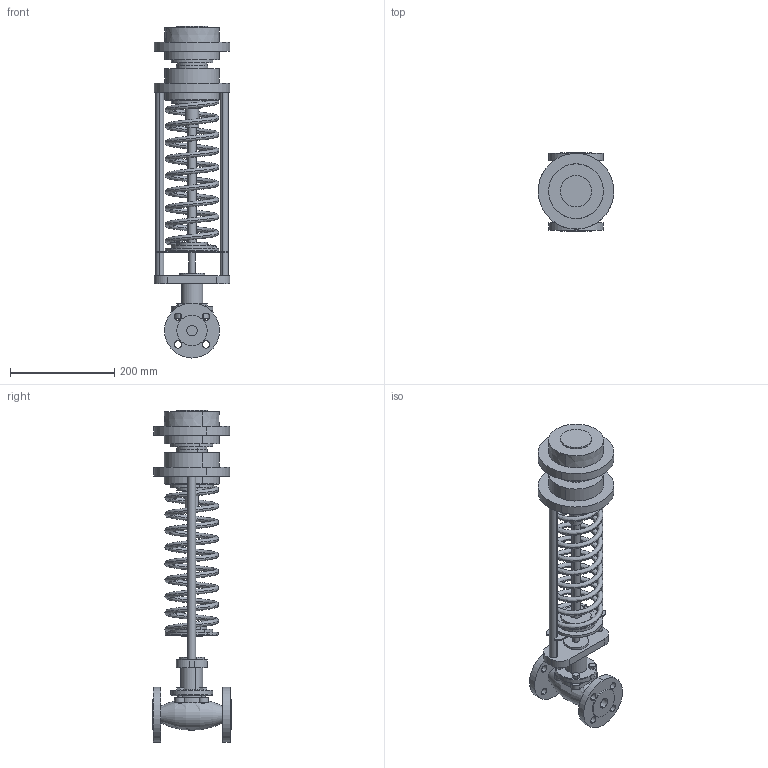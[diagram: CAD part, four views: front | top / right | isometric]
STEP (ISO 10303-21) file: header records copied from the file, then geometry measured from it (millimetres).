
FILE_DESCRIPTION (( 'STEP AP214' ), '1' );
FILE_NAME ('RDT-S, RDT-B DN-20 (0.1).STEP', '2025-12-12T09:14:51', ( '' ), ( '' ), 'SwSTEP 2.0', 'SolidWorks 2023', '' );
FILE_SCHEMA (( 'AUTOMOTIVE_DESIGN' ));
Length unit declared in the file: millimetre
Products named in the file (1): RDT-S, RDT-B DN-20 (0.1)
Bounding box: 145 x 150 x 635.5 mm (x, y, z)
Volume: 2688865.4 mm3; surface area: 375357.7 mm2
Topology: 1 solids, 2 shells, 248 faces, 582 edges, 375 vertices
Faces by surface type: cylinder 114, plane 92, cone 38, bspline 2, torus 2
Entity records: 10785 total; most frequent: CARTESIAN_POINT 4798, DIRECTION 1336, ORIENTED_EDGE 1164, EDGE_CURVE 582, AXIS2_PLACEMENT_3D 543, VERTEX_POINT 375, EDGE_LOOP 317, CIRCLE 296
